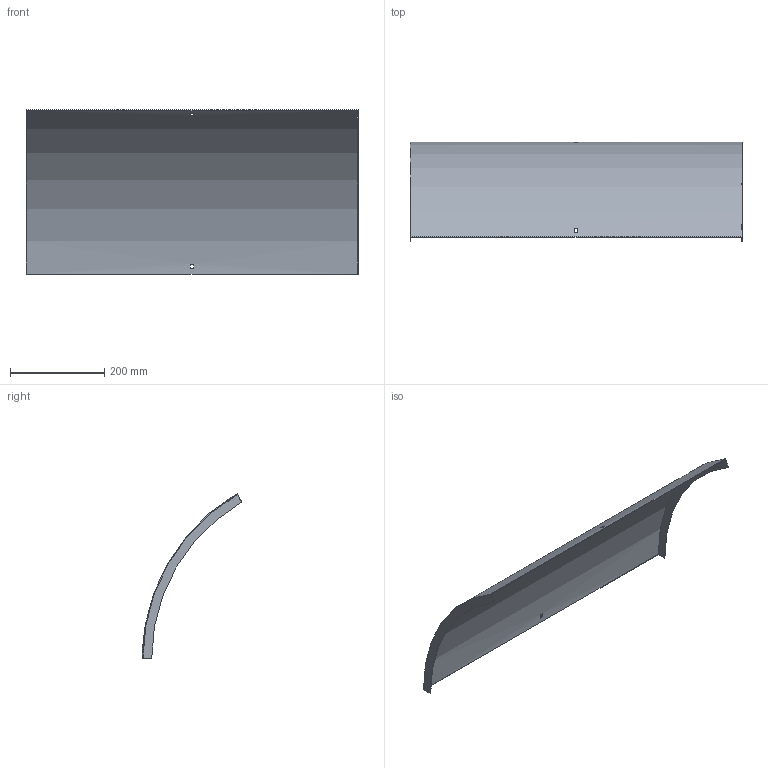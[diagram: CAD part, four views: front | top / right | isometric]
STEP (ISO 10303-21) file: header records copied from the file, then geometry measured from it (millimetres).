
FILE_DESCRIPTION (( 'STEP AP214' ), '1' );
FILE_NAME ('B2_41N3D700.step', '2025-02-21T10:41:53', ( '' ), ( '' ), 'SwSTEP 2.0', 'SolidWorks 2023', '' );
FILE_SCHEMA (( 'AUTOMOTIVE_DESIGN' ));
Length unit declared in the file: millimetre
Products named in the file (1): B2_41N3D700
Bounding box: 703 x 210.75 x 347.71 mm (x, y, z)
Volume: 465070.7 mm3; surface area: 623608.2 mm2
Topology: 1 solids, 1 shells, 18 faces, 48 edges, 32 vertices
Faces by surface type: plane 14, cylinder 4
Entity records: 599 total; most frequent: DIRECTION 102, CARTESIAN_POINT 99, ORIENTED_EDGE 96, EDGE_CURVE 48, AXIS2_PLACEMENT_3D 35, VERTEX_POINT 32, LINE 32, VECTOR 32
